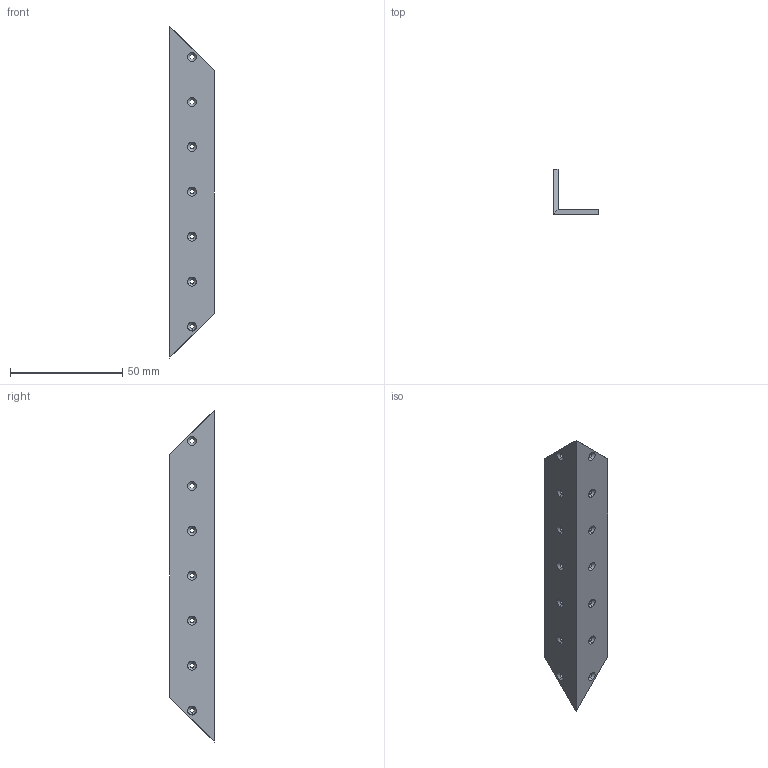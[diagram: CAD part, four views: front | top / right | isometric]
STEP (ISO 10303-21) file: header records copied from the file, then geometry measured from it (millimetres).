
FILE_DESCRIPTION (( 'STEP AP214' ), '1' );
FILE_NAME ('SC3.STEP', '2016-02-27T09:32:12', ( '' ), ( '' ), 'SwSTEP 2.0', 'SolidWorks 2012', '' );
FILE_SCHEMA (( 'AUTOMOTIVE_DESIGN' ));
Length unit declared in the file: millimetre
Products named in the file (1): SC3
Bounding box: 20 x 20 x 147.8 mm (x, y, z)
Volume: 9491.5 mm3; surface area: 10341.6 mm2
Topology: 1 solids, 1 shells, 66 faces, 174 edges, 110 vertices
Faces by surface type: cone 28, cylinder 28, plane 10
Entity records: 2162 total; most frequent: DIRECTION 406, CARTESIAN_POINT 351, ORIENTED_EDGE 348, EDGE_CURVE 174, AXIS2_PLACEMENT_3D 165, VERTEX_POINT 110, CIRCLE 98, EDGE_LOOP 94
